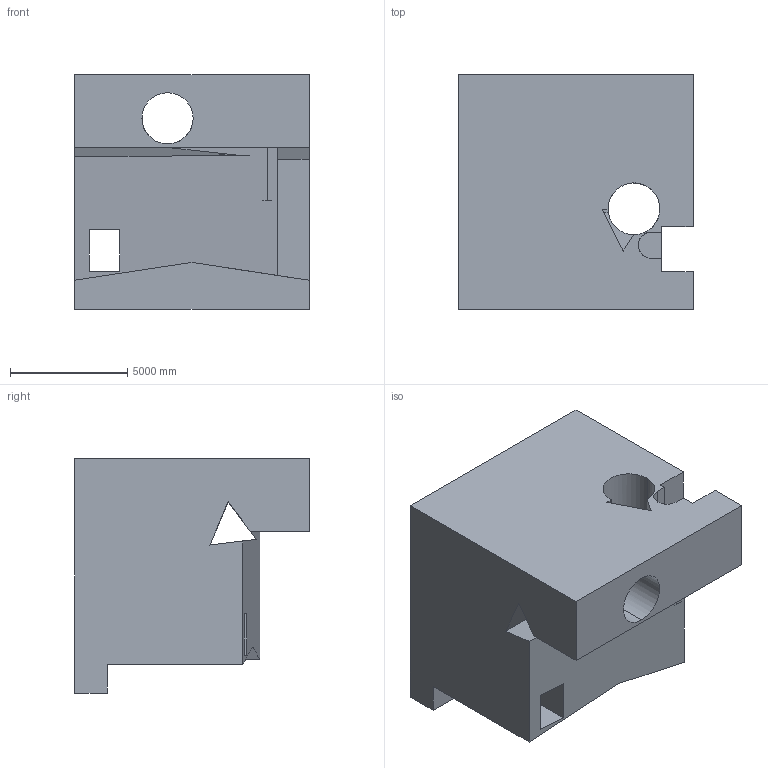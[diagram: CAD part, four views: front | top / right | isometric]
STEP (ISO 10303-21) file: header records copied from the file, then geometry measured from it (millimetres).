
FILE_DESCRIPTION (( 'STEP AP203' ), '1' );
FILE_NAME ('811.STEP', '2022-07-29T13:23:16', ( 'user' ), ( '' ), 'SwSTEP 2.0', 'SolidWorks 2021', '' );
FILE_SCHEMA (( 'CONFIG_CONTROL_DESIGN' ));
Length unit declared in the file: centimetre
Products named in the file (1): 811
Bounding box: 10000 x 10000 x 10000 mm (x, y, z)
Volume: 608871489821.2 mm3; surface area: 738253998 mm2
Topology: 1 solids, 1 shells, 38 faces, 126 edges, 84 vertices
Faces by surface type: plane 33, cylinder 5
Entity records: 1461 total; most frequent: CARTESIAN_POINT 285, ORIENTED_EDGE 252, DIRECTION 202, EDGE_CURVE 126, LINE 104, VECTOR 104, VERTEX_POINT 84, AXIS2_PLACEMENT_3D 49
